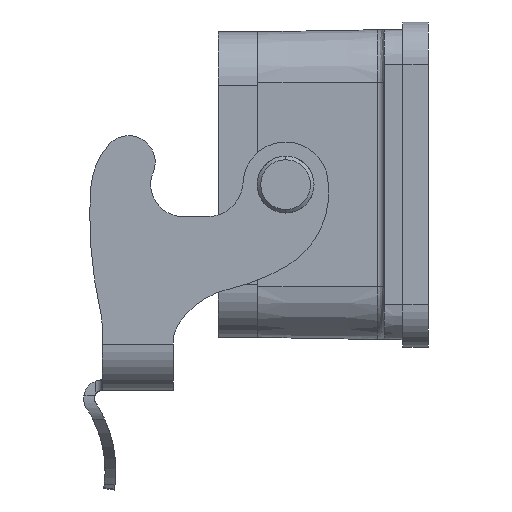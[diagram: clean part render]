
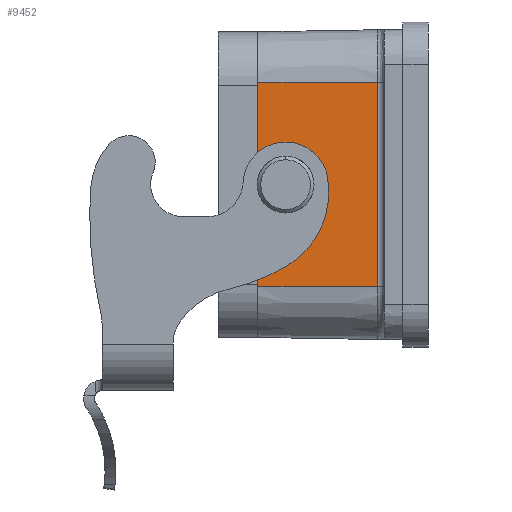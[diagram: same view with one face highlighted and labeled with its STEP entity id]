
A CAD part, left-side view. The second image highlights one B-rep face of the part: STEP entity #9452.
In plain terms, the highlighted planar face has unit normal (-1, 0.018, 0).
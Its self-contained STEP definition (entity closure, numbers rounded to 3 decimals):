
#302 = LINE ( 'NONE', #9870, #10375 ) ;
#321 = EDGE_CURVE ( 'NONE', #6356, #3476, #8349, .T. ) ;
#650 = CARTESIAN_POINT ( 'NONE',  ( -36.854, 14.1, 2. ) ) ;
#799 = CARTESIAN_POINT ( 'NONE',  ( -37.01, 5.183, 14.4 ) ) ;
#842 = VECTOR ( 'NONE', #2790, 1000. ) ;
#1465 = FACE_BOUND ( 'NONE', #2439, .T. ) ;
#1806 = ORIENTED_EDGE ( 'NONE', *, *, #3412, .T. ) ;
#2003 = LINE ( 'NONE', #7882, #12490 ) ;
#2151 = CARTESIAN_POINT ( 'NONE',  ( -36.784, 18.1, 2. ) ) ;
#2439 = EDGE_LOOP ( 'NONE', ( #3634, #5406 ) ) ;
#2790 = DIRECTION ( 'NONE',  ( 0., 0., 1. ) ) ;
#2901 = EDGE_CURVE ( 'NONE', #11102, #11179, #6704, .T. ) ;
#3117 = CARTESIAN_POINT ( 'NONE',  ( -36.714, 22.1, -2. ) ) ;
#3162 = CARTESIAN_POINT ( 'NONE',  ( -36.714, 22.1, 2. ) ) ;
#3319 = ORIENTED_EDGE ( 'NONE', *, *, #2901, .F. ) ;
#3412 = EDGE_CURVE ( 'NONE', #6152, #9648, #2003, .T. ) ;
#3476 = VERTEX_POINT ( 'NONE', #2151 ) ;
#3634 = ORIENTED_EDGE ( 'NONE', *, *, #321, .T. ) ;
#3666 =( BOUNDED_CURVE ( )  B_SPLINE_CURVE ( 3, ( #12314, #650, #8446, #10678 ),
 .UNSPECIFIED., .F., .F. ) 
 B_SPLINE_CURVE_WITH_KNOTS ( ( 4, 4 ),
 ( 1.571, 4.712 ),
 .UNSPECIFIED. ) 
 CURVE ( )  GEOMETRIC_REPRESENTATION_ITEM ( )  RATIONAL_B_SPLINE_CURVE ( ( 1., 0.333, 0.333, 1. ) ) 
 REPRESENTATION_ITEM ( '' )  );
#4034 = DIRECTION ( 'NONE',  ( 0., 0., 1. ) ) ;
#4167 = CARTESIAN_POINT ( 'NONE',  ( -8747.177, -499000., 14.4 ) ) ;
#5042 = CARTESIAN_POINT ( 'NONE',  ( -36.784, 18.1, 2. ) ) ;
#5151 = DIRECTION ( 'NONE',  ( -0.017, -1., 0. ) ) ;
#5291 = EDGE_CURVE ( 'NONE', #3476, #6356, #3666, .T. ) ;
#5406 = ORIENTED_EDGE ( 'NONE', *, *, #5291, .T. ) ;
#5445 = EDGE_LOOP ( 'NONE', ( #1806, #6700, #3319, #8851 ) ) ;
#5811 = VECTOR ( 'NONE', #5151, 1000. ) ;
#6004 = DIRECTION ( 'NONE',  ( -1., 0.017, 0. ) ) ;
#6152 = VERTEX_POINT ( 'NONE', #11014 ) ;
#6167 = LINE ( 'NONE', #8632, #842 ) ;
#6356 = VERTEX_POINT ( 'NONE', #7496 ) ;
#6375 = EDGE_CURVE ( 'NONE', #9648, #11179, #6167, .T. ) ;
#6700 = ORIENTED_EDGE ( 'NONE', *, *, #6375, .T. ) ;
#6704 = LINE ( 'NONE', #4167, #5811 ) ;
#7019 = PLANE ( 'NONE',  #10892 ) ;
#7496 = CARTESIAN_POINT ( 'NONE',  ( -36.784, 18.1, -2. ) ) ;
#7882 = CARTESIAN_POINT ( 'NONE',  ( -37.1, 0., -14.4 ) ) ;
#8039 = EDGE_CURVE ( 'NONE', #6152, #11102, #302, .T. ) ;
#8349 =( BOUNDED_CURVE ( )  B_SPLINE_CURVE ( 3, ( #10843, #3117, #3162, #5042 ),
 .UNSPECIFIED., .F., .T. ) 
 B_SPLINE_CURVE_WITH_KNOTS ( ( 4, 4 ),
 ( 4.712, 7.854 ),
 .UNSPECIFIED. ) 
 CURVE ( )  GEOMETRIC_REPRESENTATION_ITEM ( )  RATIONAL_B_SPLINE_CURVE ( ( 1., 0.333, 0.333, 1. ) ) 
 REPRESENTATION_ITEM ( '' )  );
#8446 = CARTESIAN_POINT ( 'NONE',  ( -36.854, 14.1, -2. ) ) ;
#8632 = CARTESIAN_POINT ( 'NONE',  ( -37.01, 5.183, 14.57 ) ) ;
#8780 = FACE_OUTER_BOUND ( 'NONE', #5445, .T. ) ;
#8844 = CARTESIAN_POINT ( 'NONE',  ( -37.1, 0., -24.162 ) ) ;
#8851 = ORIENTED_EDGE ( 'NONE', *, *, #8039, .F. ) ;
#9452 = ADVANCED_FACE ( 'NONE', ( #1465, #8780 ), #7019, .T. ) ;
#9648 = VERTEX_POINT ( 'NONE', #10959 ) ;
#9782 = DIRECTION ( 'NONE',  ( -0.017, -1., 0. ) ) ;
#9870 = CARTESIAN_POINT ( 'NONE',  ( -36.716, 22., 0. ) ) ;
#10375 = VECTOR ( 'NONE', #4034, 1000. ) ;
#10678 = CARTESIAN_POINT ( 'NONE',  ( -36.784, 18.1, -2. ) ) ;
#10812 = DIRECTION ( 'NONE',  ( -0.017, -1., 0. ) ) ;
#10843 = CARTESIAN_POINT ( 'NONE',  ( -36.784, 18.1, -2. ) ) ;
#10892 = AXIS2_PLACEMENT_3D ( 'NONE', #8844, #6004, #10812 ) ;
#10959 = CARTESIAN_POINT ( 'NONE',  ( -37.01, 5.183, -14.4 ) ) ;
#11014 = CARTESIAN_POINT ( 'NONE',  ( -36.716, 22., -14.4 ) ) ;
#11102 = VERTEX_POINT ( 'NONE', #12345 ) ;
#11179 = VERTEX_POINT ( 'NONE', #799 ) ;
#12314 = CARTESIAN_POINT ( 'NONE',  ( -36.784, 18.1, 2. ) ) ;
#12345 = CARTESIAN_POINT ( 'NONE',  ( -36.716, 22., 14.4 ) ) ;
#12490 = VECTOR ( 'NONE', #9782, 1000. ) ;
